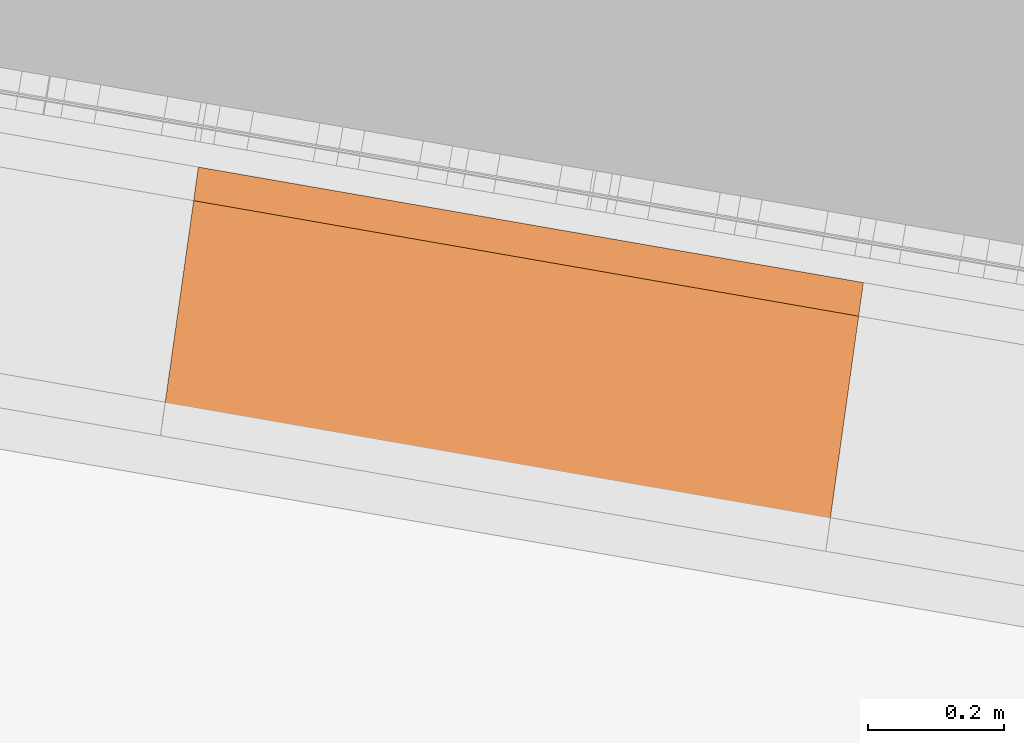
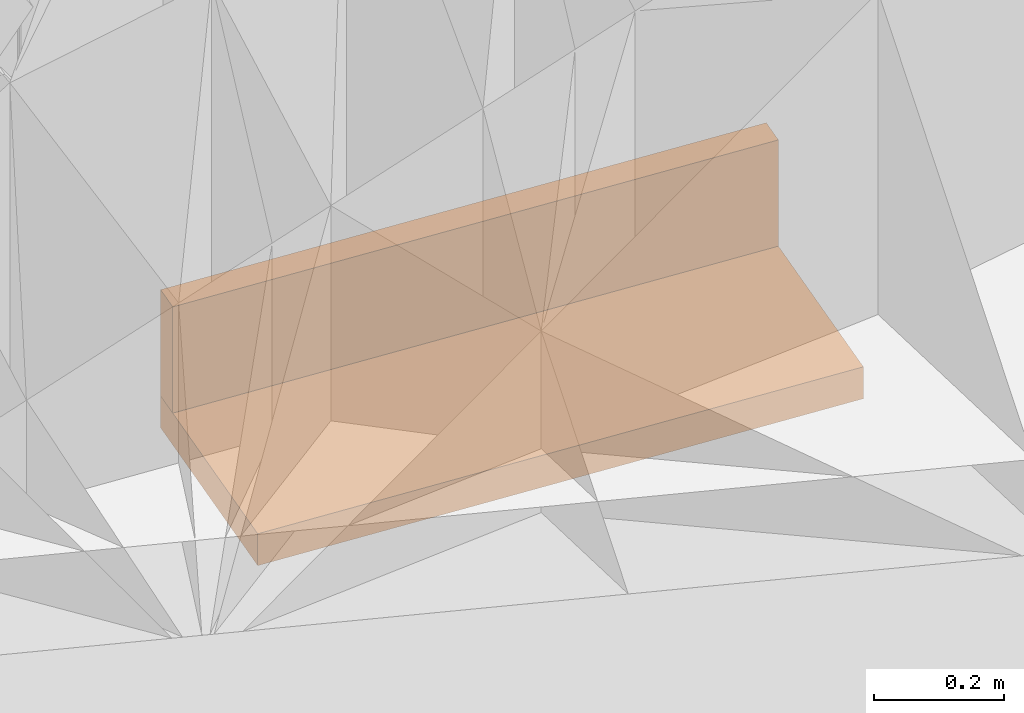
# Not in any storey, part 44 of 46: 2 proxies.
"""IFC4 model written with IfcOpenShell, lengths in metres."""

from ifc_helpers import new_model, si_unit, direction, frame, origin_with_axes, place, context, subcontext, project, spatial, polygons, material, element, save


model = new_model("IFC4")

# Units and contexts
model_context = context("Model", 3, precision=1e-05, world=origin_with_axes(), true_north=direction((0.0, 1.0)))
body_context = subcontext(model_context, "Body", "Model", "MODEL_VIEW")
ifc_project = project(units=[si_unit("VOLUMEUNIT", "CUBIC_METRE"), si_unit("LENGTHUNIT", "METRE"), si_unit("AREAUNIT", "SQUARE_METRE")], contexts=[model_context])

# Site
site_placement = place(None, origin_with_axes())
site = spatial("IfcSite", under=ifc_project, at=site_placement, Name="Lares · Rua das Mercês · artigo 4771")

# Proxies
ifc_material = material(Name="Caleiras · betão", Category="concrete")
proxy_1_placement = place(site_placement, frame((0.0, 0.0, 0.0), z_axis=(0.0, 0.0, 1.0), x_axis=(1.0, -1.03767253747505e-17, 0.0)))
element("IfcBuildingElementProxy", 1, at=proxy_1_placement, inside=site, material=ifc_material, Name="Acesso · canal lateral", ObjectType="Acesso · canal lateral", PredefinedType="USERDEFINED", context=body_context, shape_type="Tessellation", body=[
    polygons([(54.7818602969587, 10.5747191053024, 13.7089160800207), (54.8375632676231, 10.9708215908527, 13.7089160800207), (55.8179653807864, 10.800498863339, 13.7833741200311), (55.762262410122, 10.4043963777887, 13.7833741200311), (54.7818602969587, 10.5747191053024, 13.7689160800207), (54.8375632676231, 10.9708215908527, 13.7689160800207), (55.8179653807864, 10.800498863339, 13.8433741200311), (55.762262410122, 10.4043963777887, 13.8433741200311)], [[[4, 3, 2, 1]], [[5, 6, 7, 8]], [[1, 2, 6, 5]], [[2, 3, 7, 6]], [[3, 4, 8, 7]], [[4, 1, 5, 8]]]),
])
proxy_2_placement = place(site_placement, frame((0.0, 0.0, 0.0), z_axis=(0.0, 0.0, 1.0), x_axis=(1.0, -1.03767253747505e-17, 0.0)))
element("IfcBuildingElementProxy", 2, at=proxy_2_placement, inside=site, material=ifc_material, Name="Acesso · canal lateral", ObjectType="Acesso · canal lateral", PredefinedType="USERDEFINED", context=body_context, shape_type="Tessellation", body=[
    polygons([(54.8306003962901, 10.9213087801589, 13.7689160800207), (54.8375632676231, 10.9708215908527, 13.7689160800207), (55.8179653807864, 10.800498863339, 13.8433741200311), (55.8110025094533, 10.7509860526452, 13.8433741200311), (54.8306003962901, 10.9213087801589, 13.9689160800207), (54.8375632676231, 10.9708215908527, 13.9689160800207), (55.8179653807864, 10.800498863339, 14.0433741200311), (55.8110025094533, 10.7509860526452, 14.0433741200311)], [[[4, 3, 2, 1]], [[5, 6, 7, 8]], [[1, 2, 6, 5]], [[2, 3, 7, 6]], [[3, 4, 8, 7]], [[4, 1, 5, 8]]]),
])

save(model, "model.ifc")
